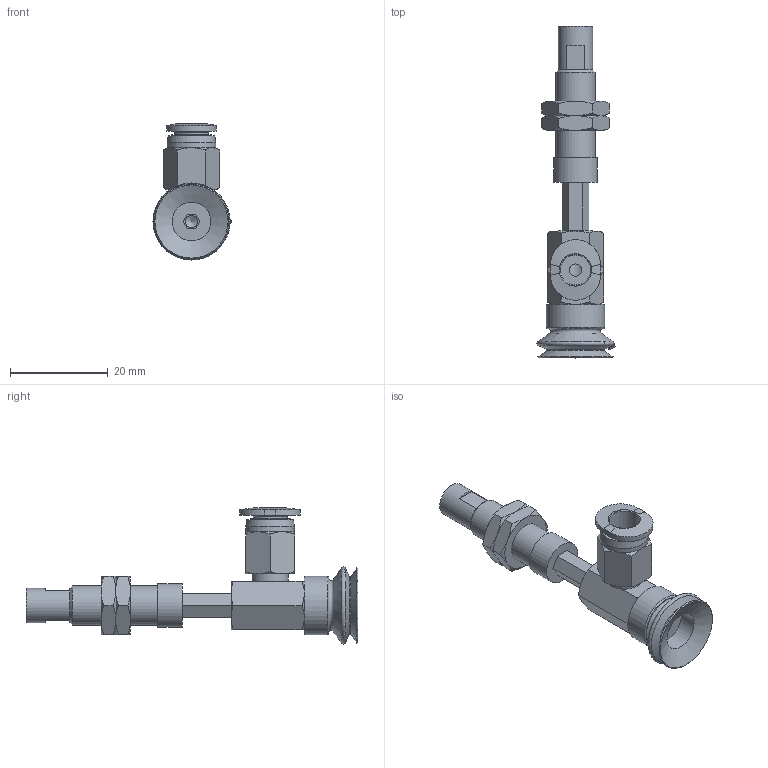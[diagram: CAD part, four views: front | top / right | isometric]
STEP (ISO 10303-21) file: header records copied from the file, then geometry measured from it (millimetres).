
FILE_DESCRIPTION(('STEP AP203'),'1');
FILE_NAME('-O.stp','2025-04-24T06:45:19',(' '),(' '),'Spatial InterOp 3D',' ',' ');
FILE_SCHEMA(('CONFIG_CONTROL_DESIGN'));
Length unit declared in the file: millimetre
Products named in the file (8): BNABPJYH-15-10-※-O; Adapter-15-NAPJ; CONNECTOR_H-15-10; NAPJH-15-10-NUT; NAPJTH-15-10-FBODY; NAPJTH-15-10-MBODY; BPJG-15-※; PC-C_06-M5
Assembly tree (8 placements, depth 2):
  BNABPJYH-15-10-※-O
    Adapter-15-NAPJ
    CONNECTOR_H-15-10
    NAPJH-15-10-NUT  x2
    NAPJTH-15-10-FBODY
    NAPJTH-15-10-MBODY
    BPJG-15-※
    PC-C_06-M5
Bounding box: 15.99 x 68 x 27.87 mm (x, y, z)
Volume: 4407.2 mm3; surface area: 6009.9 mm2
Topology: 7 solids, 10 shells, 215 faces, 464 edges, 280 vertices
Faces by surface type: plane 89, cone 74, cylinder 24, torus 11, bspline 10, sphere 4, revolution 3
Full cylindrical faces by diameter (mm): 2.5 x1, 4 x2, 4.134 x3, 4.6 x1, 5 x3, 7 x2, 7.188 x2, 7.4 x1, 7.9 x1, 8 x2, 8.2 x1, 9 x1, 10 x1, 12 x1
Entity records: 5910 total; most frequent: CARTESIAN_POINT 1742, DIRECTION 777, ORIENTED_EDGE 698, EDGE_CURVE 351, AXIS2_PLACEMENT_3D 326, EDGE_LOOP 269, VERTEX_POINT 241, FACE_OUTER_BOUND 162
